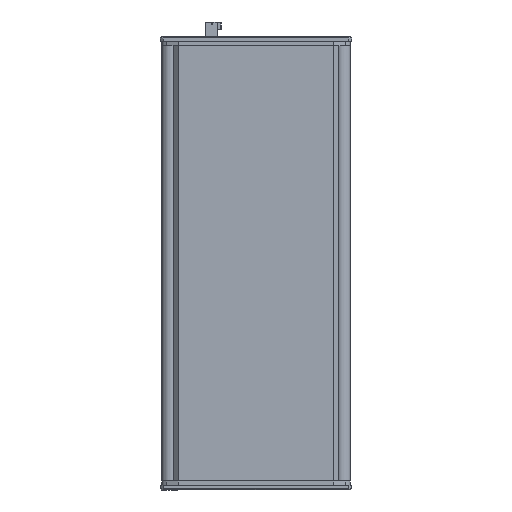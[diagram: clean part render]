
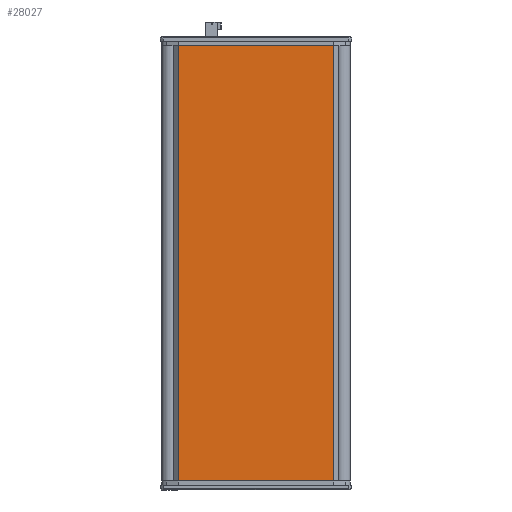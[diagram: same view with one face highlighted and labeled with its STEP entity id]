
A CAD part, front view. The second image highlights one B-rep face of the part: STEP entity #28027.
In plain terms, the highlighted planar face has unit normal (0, -1, 0).
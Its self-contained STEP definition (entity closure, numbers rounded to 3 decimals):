
#477 = EDGE_LOOP ( 'NONE', ( #38716, #23258, #9783, #5999 ) ) ;
#2592 = CARTESIAN_POINT ( 'NONE',  ( 26.811, 0., 149.86 ) ) ;
#2939 = EDGE_CURVE ( 'NONE', #7341, #22717, #11414, .T. ) ;
#3463 = EDGE_CURVE ( 'NONE', #23183, #7341, #14416, .T. ) ;
#5443 = VECTOR ( 'NONE', #24947, 1000. ) ;
#5999 = ORIENTED_EDGE ( 'NONE', *, *, #3463, .T. ) ;
#7341 = VERTEX_POINT ( 'NONE', #35542 ) ;
#8865 = PLANE ( 'NONE',  #13652 ) ;
#9783 = ORIENTED_EDGE ( 'NONE', *, *, #39310, .T. ) ;
#11414 = LINE ( 'NONE', #28024, #29771 ) ;
#11814 = CARTESIAN_POINT ( 'NONE',  ( 26.811, 0., 149.86 ) ) ;
#13652 = AXIS2_PLACEMENT_3D ( 'NONE', #2592, #33532, #36887 ) ;
#14416 = LINE ( 'NONE', #15295, #5443 ) ;
#14835 = VERTEX_POINT ( 'NONE', #11814 ) ;
#15295 = CARTESIAN_POINT ( 'NONE',  ( -26.811, 0., 149.86 ) ) ;
#16064 = CARTESIAN_POINT ( 'NONE',  ( -26.811, 0., 149.86 ) ) ;
#16558 = VECTOR ( 'NONE', #26340, 1000. ) ;
#22717 = VERTEX_POINT ( 'NONE', #42613 ) ;
#23183 = VERTEX_POINT ( 'NONE', #16064 ) ;
#23258 = ORIENTED_EDGE ( 'NONE', *, *, #25349, .T. ) ;
#24947 = DIRECTION ( 'NONE',  ( 0., 0., -1. ) ) ;
#25092 = DIRECTION ( 'NONE',  ( 1., 0., 0. ) ) ;
#25349 = EDGE_CURVE ( 'NONE', #22717, #14835, #26887, .T. ) ;
#26340 = DIRECTION ( 'NONE',  ( -1., 0., 0. ) ) ;
#26658 = CARTESIAN_POINT ( 'NONE',  ( 26.811, 0., 149.86 ) ) ;
#26887 = LINE ( 'NONE', #26658, #40073 ) ;
#28024 = CARTESIAN_POINT ( 'NONE',  ( 26.811, 0., 0. ) ) ;
#28027 = ADVANCED_FACE ( 'NONE', ( #39620 ), #8865, .T. ) ;
#29285 = LINE ( 'NONE', #43871, #16558 ) ;
#29771 = VECTOR ( 'NONE', #25092, 1000. ) ;
#33532 = DIRECTION ( 'NONE',  ( 0., -1., 0. ) ) ;
#35542 = CARTESIAN_POINT ( 'NONE',  ( -26.811, 0., 0. ) ) ;
#36887 = DIRECTION ( 'NONE',  ( 1., 0., 0. ) ) ;
#38716 = ORIENTED_EDGE ( 'NONE', *, *, #2939, .T. ) ;
#39310 = EDGE_CURVE ( 'NONE', #14835, #23183, #29285, .T. ) ;
#39620 = FACE_OUTER_BOUND ( 'NONE', #477, .T. ) ;
#39948 = DIRECTION ( 'NONE',  ( 0., 0., 1. ) ) ;
#40073 = VECTOR ( 'NONE', #39948, 1000. ) ;
#42613 = CARTESIAN_POINT ( 'NONE',  ( 26.811, 0., 0. ) ) ;
#43871 = CARTESIAN_POINT ( 'NONE',  ( 26.811, 0., 149.86 ) ) ;
